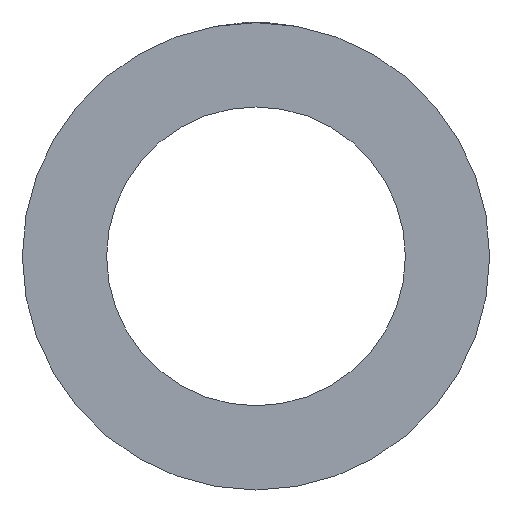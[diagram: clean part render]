
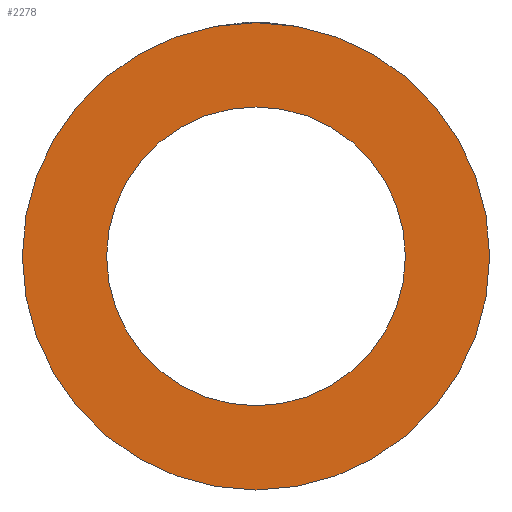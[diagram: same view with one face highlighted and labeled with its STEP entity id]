
A CAD part, left-side view. The second image highlights one B-rep face of the part: STEP entity #2278.
In plain terms, the highlighted planar face has unit normal (-1, 0, 0).
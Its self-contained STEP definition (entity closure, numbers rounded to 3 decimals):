
#54 = CARTESIAN_POINT ( 'NONE',  ( 0., 0., -160. ) ) ;
#91 = CIRCLE ( 'NONE', #3015, 160. ) ;
#95 = VERTEX_POINT ( 'NONE', #672 ) ;
#277 = DIRECTION ( 'NONE',  ( 0., 0., 1. ) ) ;
#301 = DIRECTION ( 'NONE',  ( -1., 0., 0. ) ) ;
#314 = CARTESIAN_POINT ( 'NONE',  ( 0., 0., 0. ) ) ;
#440 = EDGE_LOOP ( 'NONE', ( #1887, #1893 ) ) ;
#460 = EDGE_LOOP ( 'NONE', ( #2163, #2575 ) ) ;
#655 = VERTEX_POINT ( 'NONE', #54 ) ;
#672 = CARTESIAN_POINT ( 'NONE',  ( 0., 0., 160. ) ) ;
#705 = EDGE_CURVE ( 'NONE', #2798, #1491, #2412, .T. ) ;
#754 = EDGE_CURVE ( 'NONE', #655, #95, #2451, .T. ) ;
#835 = AXIS2_PLACEMENT_3D ( 'NONE', #314, #301, #277 ) ;
#863 = DIRECTION ( 'NONE',  ( 0., 0., 1. ) ) ;
#868 = DIRECTION ( 'NONE',  ( -1., 0., 0. ) ) ;
#875 = CARTESIAN_POINT ( 'NONE',  ( 0., 0., 0. ) ) ;
#890 = CIRCLE ( 'NONE', #835, 102.3 ) ;
#1434 = FACE_OUTER_BOUND ( 'NONE', #460, .T. ) ;
#1471 = FACE_BOUND ( 'NONE', #440, .T. ) ;
#1491 = VERTEX_POINT ( 'NONE', #2572 ) ;
#1877 = DIRECTION ( 'NONE',  ( 0., 0., 1. ) ) ;
#1886 = DIRECTION ( 'NONE',  ( -1., 0., 0. ) ) ;
#1887 = ORIENTED_EDGE ( 'NONE', *, *, #705, .F. ) ;
#1893 = ORIENTED_EDGE ( 'NONE', *, *, #2626, .F. ) ;
#1899 = CARTESIAN_POINT ( 'NONE',  ( 0., 0., 0. ) ) ;
#2067 = CARTESIAN_POINT ( 'NONE',  ( 0., 0., 0. ) ) ;
#2151 = EDGE_CURVE ( 'NONE', #95, #655, #91, .T. ) ;
#2163 = ORIENTED_EDGE ( 'NONE', *, *, #2151, .T. ) ;
#2278 = ADVANCED_FACE ( 'NONE', ( #1471, #1434 ), #3126, .F. ) ;
#2372 = DIRECTION ( 'NONE',  ( 0., 0., 1. ) ) ;
#2412 = CIRCLE ( 'NONE', #2488, 102.3 ) ;
#2451 = CIRCLE ( 'NONE', #2471, 160. ) ;
#2454 = AXIS2_PLACEMENT_3D ( 'NONE', #2923, #2913, #2901 ) ;
#2471 = AXIS2_PLACEMENT_3D ( 'NONE', #2067, #2607, #2372 ) ;
#2488 = AXIS2_PLACEMENT_3D ( 'NONE', #875, #868, #863 ) ;
#2572 = CARTESIAN_POINT ( 'NONE',  ( 0., 0., -102.3 ) ) ;
#2575 = ORIENTED_EDGE ( 'NONE', *, *, #754, .T. ) ;
#2607 = DIRECTION ( 'NONE',  ( -1., 0., 0. ) ) ;
#2626 = EDGE_CURVE ( 'NONE', #1491, #2798, #890, .T. ) ;
#2787 = CARTESIAN_POINT ( 'NONE',  ( 0., 0., 102.3 ) ) ;
#2798 = VERTEX_POINT ( 'NONE', #2787 ) ;
#2901 = DIRECTION ( 'NONE',  ( 0., 0., -1. ) ) ;
#2913 = DIRECTION ( 'NONE',  ( 1., 0., 0. ) ) ;
#2923 = CARTESIAN_POINT ( 'NONE',  ( 0., 102.3, 0. ) ) ;
#3015 = AXIS2_PLACEMENT_3D ( 'NONE', #1899, #1886, #1877 ) ;
#3126 = PLANE ( 'NONE',  #2454 ) ;
